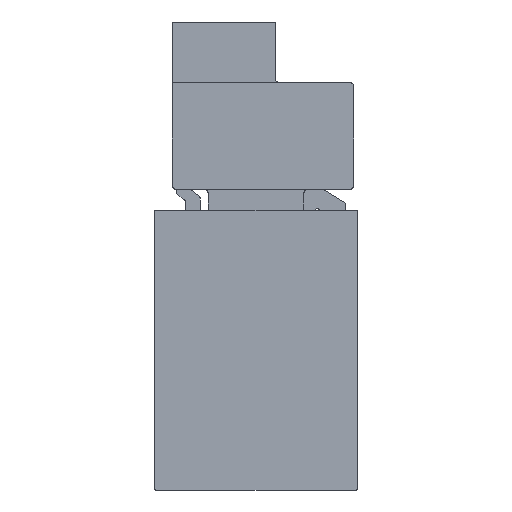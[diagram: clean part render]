
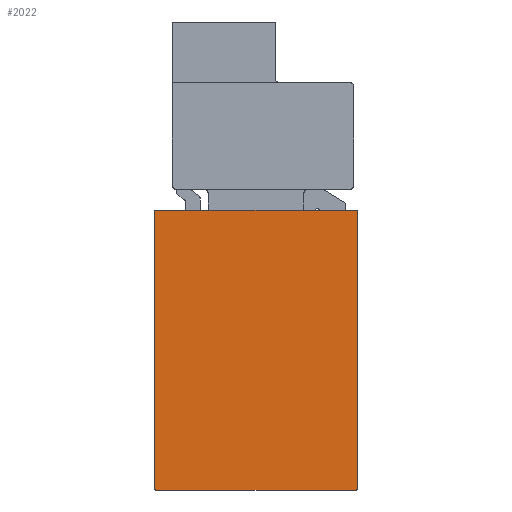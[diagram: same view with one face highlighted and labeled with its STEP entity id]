
A CAD part, front view. The second image highlights one B-rep face of the part: STEP entity #2022.
In plain terms, the highlighted planar face has unit normal (0, -1, 0).
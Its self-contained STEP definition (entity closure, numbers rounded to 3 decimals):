
#117=CARTESIAN_POINT('',(24.85,-4.275,-31.805));
#118=DIRECTION('',(0.,1.,0.));
#119=DIRECTION('',(1.,0.,0.));
#120=AXIS2_PLACEMENT_3D('',#117,#118,#119);
#122=DIRECTION('',(-1.,0.,0.));
#123=VECTOR('',#122,49.7);
#124=CARTESIAN_POINT('',(24.85,-4.275,-32.105));
#125=LINE('',#124,#123);
#126=CARTESIAN_POINT('',(-24.85,-4.275,-31.805));
#127=DIRECTION('',(0.,1.,0.));
#128=DIRECTION('',(0.,0.,-1.));
#129=AXIS2_PLACEMENT_3D('',#126,#127,#128);
#131=DIRECTION('',(0.,0.,1.));
#132=VECTOR('',#131,68.7);
#133=CARTESIAN_POINT('',(-25.15,-4.275,-31.805));
#134=LINE('',#133,#132);
#135=CARTESIAN_POINT('',(-24.85,-4.275,36.895));
#136=DIRECTION('',(0.,1.,0.));
#137=DIRECTION('',(-1.,0.,0.));
#138=AXIS2_PLACEMENT_3D('',#135,#136,#137);
#140=DIRECTION('',(1.,0.,0.));
#141=VECTOR('',#140,49.7);
#142=CARTESIAN_POINT('',(-24.85,-4.275,37.195));
#143=LINE('',#142,#141);
#144=CARTESIAN_POINT('',(24.85,-4.275,36.895));
#145=DIRECTION('',(0.,1.,0.));
#146=DIRECTION('',(0.,0.,1.));
#147=AXIS2_PLACEMENT_3D('',#144,#145,#146);
#149=DIRECTION('',(0.,0.,-1.));
#150=VECTOR('',#149,68.7);
#151=CARTESIAN_POINT('',(25.15,-4.275,36.895));
#152=LINE('',#151,#150);
#1619=CARTESIAN_POINT('',(25.15,-4.275,-31.805));
#1620=CARTESIAN_POINT('',(24.85,-4.275,-32.105));
#1621=VERTEX_POINT('',#1619);
#1622=VERTEX_POINT('',#1620);
#1623=CARTESIAN_POINT('',(-24.85,-4.275,-32.105));
#1624=VERTEX_POINT('',#1623);
#1625=CARTESIAN_POINT('',(-25.15,-4.275,-31.805));
#1626=VERTEX_POINT('',#1625);
#1627=CARTESIAN_POINT('',(-25.15,-4.275,36.895));
#1628=VERTEX_POINT('',#1627);
#1629=CARTESIAN_POINT('',(-24.85,-4.275,37.195));
#1630=VERTEX_POINT('',#1629);
#1631=CARTESIAN_POINT('',(24.85,-4.275,37.195));
#1632=VERTEX_POINT('',#1631);
#1633=CARTESIAN_POINT('',(25.15,-4.275,36.895));
#1634=VERTEX_POINT('',#1633);
#2000=CARTESIAN_POINT('',(0.,-4.275,0.));
#2001=DIRECTION('',(0.,1.,0.));
#2002=DIRECTION('',(1.,0.,0.));
#2003=AXIS2_PLACEMENT_3D('',#2000,#2001,#2002);
#2004=PLANE('',#2003);
#2005=ORIENTED_EDGE('',*,*,#1990,.T.);
#2007=ORIENTED_EDGE('',*,*,#2006,.T.);
#2009=ORIENTED_EDGE('',*,*,#2008,.T.);
#2011=ORIENTED_EDGE('',*,*,#2010,.T.);
#2013=ORIENTED_EDGE('',*,*,#2012,.T.);
#2015=ORIENTED_EDGE('',*,*,#2014,.T.);
#2017=ORIENTED_EDGE('',*,*,#2016,.T.);
#2019=ORIENTED_EDGE('',*,*,#2018,.T.);
#2020=EDGE_LOOP('',(#2005,#2007,#2009,#2011,#2013,#2015,#2017,#2019));
#2021=FACE_OUTER_BOUND('',#2020,.F.);
#121=CIRCLE('',#120,0.3);
#130=CIRCLE('',#129,0.3);
#139=CIRCLE('',#138,0.3);
#148=CIRCLE('',#147,0.3);
#1990=EDGE_CURVE('',#1621,#1622,#121,.T.);
#2006=EDGE_CURVE('',#1622,#1624,#125,.T.);
#2008=EDGE_CURVE('',#1624,#1626,#130,.T.);
#2010=EDGE_CURVE('',#1626,#1628,#134,.T.);
#2012=EDGE_CURVE('',#1628,#1630,#139,.T.);
#2014=EDGE_CURVE('',#1630,#1632,#143,.T.);
#2016=EDGE_CURVE('',#1632,#1634,#148,.T.);
#2018=EDGE_CURVE('',#1634,#1621,#152,.T.);
#2022=ADVANCED_FACE('',(#2021),#2004,.F.);
